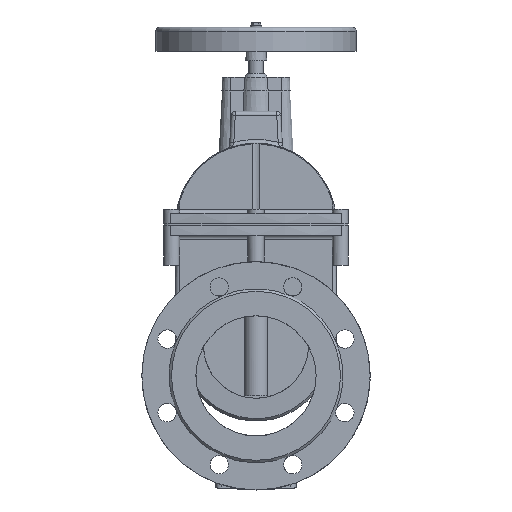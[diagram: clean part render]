
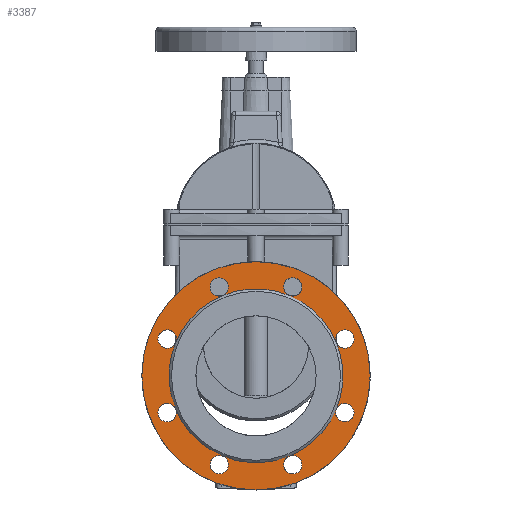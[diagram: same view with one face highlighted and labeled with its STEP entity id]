
A CAD part, left-side view. The second image highlights one B-rep face of the part: STEP entity #3387.
In plain terms, the highlighted planar face has unit normal (-1, 0, 0).
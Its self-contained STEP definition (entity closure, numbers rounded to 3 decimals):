
#3387=ADVANCED_FACE('',(#8542,#8544,#8546,#8548,#8550,#8552,#8554,#8556,#8558,#8560),
#8562,.F.);
#8542=FACE_BOUND('',#8543,.T.);
#8543=EDGE_LOOP('',(#17912));
#8544=FACE_BOUND('',#8545,.T.);
#8545=EDGE_LOOP('',(#17913,#17914));
#8546=FACE_BOUND('',#8547,.T.);
#8547=EDGE_LOOP('',(#17915));
#8548=FACE_BOUND('',#8549,.T.);
#8549=EDGE_LOOP('',(#17916));
#8550=FACE_BOUND('',#8551,.T.);
#8551=EDGE_LOOP('',(#17917,#17918,#17919,#17920,#17921,#17922,#17923));
#8552=FACE_BOUND('',#8553,.T.);
#8553=EDGE_LOOP('',(#17924,#17925));
#8554=FACE_BOUND('',#8555,.T.);
#8555=EDGE_LOOP('',(#17926,#17927));
#8556=FACE_BOUND('',#8557,.T.);
#8557=EDGE_LOOP('',(#17928,#17929));
#8558=FACE_BOUND('',#8559,.T.);
#8559=EDGE_LOOP('',(#17930,#17931));
#8560=FACE_BOUND('',#8561,.T.);
#8561=EDGE_LOOP('',(#17932,#17933));
#8562=PLANE('',#8563);
#8563=AXIS2_PLACEMENT_3D('',#8564,#8565,#8566);
#8564=CARTESIAN_POINT('',(-172.,0.,0.));
#8565=DIRECTION('',(1.,0.,0.));
#8566=DIRECTION('',(0.,1.,0.));
#17912=ORIENTED_EDGE('',*,*,#20651,.F.);
#17913=ORIENTED_EDGE('',*,*,#20659,.T.);
#17914=ORIENTED_EDGE('',*,*,#20660,.T.);
#17915=ORIENTED_EDGE('',*,*,#20658,.T.);
#17916=ORIENTED_EDGE('',*,*,#20671,.T.);
#17917=ORIENTED_EDGE('',*,*,#20773,.F.);
#17918=ORIENTED_EDGE('',*,*,#20774,.F.);
#17919=ORIENTED_EDGE('',*,*,#20775,.F.);
#17920=ORIENTED_EDGE('',*,*,#20776,.F.);
#17921=ORIENTED_EDGE('',*,*,#20777,.F.);
#17922=ORIENTED_EDGE('',*,*,#20778,.F.);
#17923=ORIENTED_EDGE('',*,*,#20779,.F.);
#17924=ORIENTED_EDGE('',*,*,#20670,.T.);
#17925=ORIENTED_EDGE('',*,*,#20669,.T.);
#17926=ORIENTED_EDGE('',*,*,#20668,.T.);
#17927=ORIENTED_EDGE('',*,*,#20667,.T.);
#17928=ORIENTED_EDGE('',*,*,#20666,.T.);
#17929=ORIENTED_EDGE('',*,*,#20665,.T.);
#17930=ORIENTED_EDGE('',*,*,#20664,.T.);
#17931=ORIENTED_EDGE('',*,*,#20663,.T.);
#17932=ORIENTED_EDGE('',*,*,#20661,.T.);
#17933=ORIENTED_EDGE('',*,*,#20662,.T.);
#20651=EDGE_CURVE('',#23377,#23377,#23378,.T.);
#20658=EDGE_CURVE('',#23387,#23387,#23388,.T.);
#20659=EDGE_CURVE('',#23389,#23390,#23391,.T.);
#20660=EDGE_CURVE('',#23390,#23389,#23392,.T.);
#20661=EDGE_CURVE('',#23393,#23394,#23395,.T.);
#20662=EDGE_CURVE('',#23394,#23393,#23396,.T.);
#20663=EDGE_CURVE('',#23397,#23398,#23399,.T.);
#20664=EDGE_CURVE('',#23398,#23397,#23400,.T.);
#20665=EDGE_CURVE('',#23401,#23402,#23403,.T.);
#20666=EDGE_CURVE('',#23402,#23401,#23404,.T.);
#20667=EDGE_CURVE('',#23405,#23406,#23407,.T.);
#20668=EDGE_CURVE('',#23406,#23405,#23408,.T.);
#20669=EDGE_CURVE('',#23409,#23410,#23411,.T.);
#20670=EDGE_CURVE('',#23410,#23409,#23412,.T.);
#20671=EDGE_CURVE('',#23413,#23413,#23414,.T.);
#20773=EDGE_CURVE('',#23406,#23410,#23565,.T.);
#20774=EDGE_CURVE('',#23566,#23406,#23567,.T.);
#20775=EDGE_CURVE('',#23402,#23566,#23568,.T.);
#20776=EDGE_CURVE('',#23398,#23402,#23569,.T.);
#20777=EDGE_CURVE('',#23393,#23398,#23570,.T.);
#20778=EDGE_CURVE('',#23389,#23393,#23571,.T.);
#20779=EDGE_CURVE('',#23410,#23389,#23572,.T.);
#23377=VERTEX_POINT('',#32287);
#23378=CIRCLE('',#32288,142.5);
#23387=VERTEX_POINT('',#32314);
#23388=CIRCLE('',#32315,11.5);
#23389=VERTEX_POINT('',#32319);
#23390=VERTEX_POINT('',#32320);
#23391=CIRCLE('',#32321,11.5);
#23392=CIRCLE('',#32325,11.5);
#23393=VERTEX_POINT('',#32329);
#23394=VERTEX_POINT('',#32330);
#23395=CIRCLE('',#32331,11.5);
#23396=CIRCLE('',#32335,11.5);
#23397=VERTEX_POINT('',#32339);
#23398=VERTEX_POINT('',#32340);
#23399=CIRCLE('',#32341,11.5);
#23400=CIRCLE('',#32345,11.5);
#23401=VERTEX_POINT('',#32349);
#23402=VERTEX_POINT('',#32350);
#23403=CIRCLE('',#32351,11.5);
#23404=CIRCLE('',#32355,11.5);
#23405=VERTEX_POINT('',#32359);
#23406=VERTEX_POINT('',#32360);
#23407=CIRCLE('',#32361,11.5);
#23408=CIRCLE('',#32365,11.5);
#23409=VERTEX_POINT('',#32369);
#23410=VERTEX_POINT('',#32370);
#23411=CIRCLE('',#32371,11.5);
#23412=CIRCLE('',#32375,11.5);
#23413=VERTEX_POINT('',#32379);
#23414=CIRCLE('',#32380,11.5);
#23565=CIRCLE('',#32751,108.5);
#23566=VERTEX_POINT('',#32755);
#23567=CIRCLE('',#32756,108.5);
#23568=CIRCLE('',#32760,108.5);
#23569=CIRCLE('',#32764,108.5);
#23570=CIRCLE('',#32768,108.5);
#23571=CIRCLE('',#32772,108.5);
#23572=CIRCLE('',#32776,108.5);
#32287=CARTESIAN_POINT('',(-172.,142.5,0.));
#32288=AXIS2_PLACEMENT_3D('',#32289,#32290,#32291);
#32289=CARTESIAN_POINT('',(-172.,0.,0.));
#32290=DIRECTION('',(1.,0.,0.));
#32291=DIRECTION('',(0.,1.,0.));
#32314=CARTESIAN_POINT('',(-172.,122.366,45.922));
#32315=AXIS2_PLACEMENT_3D('',#32316,#32317,#32318);
#32316=CARTESIAN_POINT('',(-172.,110.866,45.922));
#32317=DIRECTION('',(1.,0.,0.));
#32318=DIRECTION('',(0.,1.,0.));
#32319=CARTESIAN_POINT('',(-172.,100.241,-41.521));
#32320=CARTESIAN_POINT('',(-172.,118.997,-54.054));
#32321=AXIS2_PLACEMENT_3D('',#32322,#32323,#32324);
#32322=CARTESIAN_POINT('',(-172.,110.866,-45.922));
#32323=DIRECTION('',(1.,0.,0.));
#32324=DIRECTION('',(0.,-0.924,0.383));
#32325=AXIS2_PLACEMENT_3D('',#32326,#32327,#32328);
#32326=CARTESIAN_POINT('',(-172.,110.866,-45.922));
#32327=DIRECTION('',(1.,0.,0.));
#32328=DIRECTION('',(0.,0.707,-0.707));
#32329=CARTESIAN_POINT('',(-172.,41.521,-100.241));
#32330=CARTESIAN_POINT('',(-172.,45.922,-122.366));
#32331=AXIS2_PLACEMENT_3D('',#32332,#32333,#32334);
#32332=CARTESIAN_POINT('',(-172.,45.922,-110.866));
#32333=DIRECTION('',(1.,0.,0.));
#32334=DIRECTION('',(0.,-0.383,0.924));
#32335=AXIS2_PLACEMENT_3D('',#32336,#32337,#32338);
#32336=CARTESIAN_POINT('',(-172.,45.922,-110.866));
#32337=DIRECTION('',(1.,0.,0.));
#32338=DIRECTION('',(0.,0.,-1.));
#32339=CARTESIAN_POINT('',(-172.,-54.054,-118.997));
#32340=CARTESIAN_POINT('',(-172.,-41.521,-100.241));
#32341=AXIS2_PLACEMENT_3D('',#32342,#32343,#32344);
#32342=CARTESIAN_POINT('',(-172.,-45.922,-110.866));
#32343=DIRECTION('',(1.,0.,0.));
#32344=DIRECTION('',(0.,-0.707,-0.707));
#32345=AXIS2_PLACEMENT_3D('',#32346,#32347,#32348);
#32346=CARTESIAN_POINT('',(-172.,-45.922,-110.866));
#32347=DIRECTION('',(1.,0.,0.));
#32348=DIRECTION('',(0.,0.383,0.924));
#32349=CARTESIAN_POINT('',(-172.,-122.366,-45.922));
#32350=CARTESIAN_POINT('',(-172.,-100.241,-41.521));
#32351=AXIS2_PLACEMENT_3D('',#32352,#32353,#32354);
#32352=CARTESIAN_POINT('',(-172.,-110.866,-45.922));
#32353=DIRECTION('',(1.,0.,0.));
#32354=DIRECTION('',(0.,-1.,0.));
#32355=AXIS2_PLACEMENT_3D('',#32356,#32357,#32358);
#32356=CARTESIAN_POINT('',(-172.,-110.866,-45.922));
#32357=DIRECTION('',(1.,0.,0.));
#32358=DIRECTION('',(0.,0.924,0.383));
#32359=CARTESIAN_POINT('',(-172.,-118.997,54.054));
#32360=CARTESIAN_POINT('',(-172.,-100.241,41.521));
#32361=AXIS2_PLACEMENT_3D('',#32362,#32363,#32364);
#32362=CARTESIAN_POINT('',(-172.,-110.866,45.922));
#32363=DIRECTION('',(1.,0.,0.));
#32364=DIRECTION('',(0.,-0.707,0.707));
#32365=AXIS2_PLACEMENT_3D('',#32366,#32367,#32368);
#32366=CARTESIAN_POINT('',(-172.,-110.866,45.922));
#32367=DIRECTION('',(1.,0.,0.));
#32368=DIRECTION('',(0.,0.924,-0.383));
#32369=CARTESIAN_POINT('',(-172.,-45.922,122.366));
#32370=CARTESIAN_POINT('',(-172.,-41.521,100.241));
#32371=AXIS2_PLACEMENT_3D('',#32372,#32373,#32374);
#32372=CARTESIAN_POINT('',(-172.,-45.922,110.866));
#32373=DIRECTION('',(1.,0.,0.));
#32374=DIRECTION('',(0.,0.,1.));
#32375=AXIS2_PLACEMENT_3D('',#32376,#32377,#32378);
#32376=CARTESIAN_POINT('',(-172.,-45.922,110.866));
#32377=DIRECTION('',(1.,0.,0.));
#32378=DIRECTION('',(0.,0.383,-0.924));
#32379=CARTESIAN_POINT('',(-172.,54.054,118.997));
#32380=AXIS2_PLACEMENT_3D('',#32381,#32382,#32383);
#32381=CARTESIAN_POINT('',(-172.,45.922,110.866));
#32382=DIRECTION('',(1.,0.,0.));
#32383=DIRECTION('',(0.,0.707,0.707));
#32751=AXIS2_PLACEMENT_3D('',#32752,#32753,#32754);
#32752=CARTESIAN_POINT('',(-172.,0.,0.));
#32753=DIRECTION('',(-1.,0.,0.));
#32754=DIRECTION('',(0.,-0.924,0.383));
#32755=CARTESIAN_POINT('',(-172.,-108.5,0.));
#32756=AXIS2_PLACEMENT_3D('',#32757,#32758,#32759);
#32757=CARTESIAN_POINT('',(-172.,0.,0.));
#32758=DIRECTION('',(-1.,0.,0.));
#32759=DIRECTION('',(0.,-1.,0.));
#32760=AXIS2_PLACEMENT_3D('',#32761,#32762,#32763);
#32761=CARTESIAN_POINT('',(-172.,0.,0.));
#32762=DIRECTION('',(-1.,0.,0.));
#32763=DIRECTION('',(0.,-0.924,-0.383));
#32764=AXIS2_PLACEMENT_3D('',#32765,#32766,#32767);
#32765=CARTESIAN_POINT('',(-172.,0.,0.));
#32766=DIRECTION('',(-1.,0.,0.));
#32767=DIRECTION('',(0.,-0.383,-0.924));
#32768=AXIS2_PLACEMENT_3D('',#32769,#32770,#32771);
#32769=CARTESIAN_POINT('',(-172.,0.,0.));
#32770=DIRECTION('',(-1.,0.,0.));
#32771=DIRECTION('',(0.,0.383,-0.924));
#32772=AXIS2_PLACEMENT_3D('',#32773,#32774,#32775);
#32773=CARTESIAN_POINT('',(-172.,0.,0.));
#32774=DIRECTION('',(-1.,0.,0.));
#32775=DIRECTION('',(0.,0.924,-0.383));
#32776=AXIS2_PLACEMENT_3D('',#32777,#32778,#32779);
#32777=CARTESIAN_POINT('',(-172.,0.,0.));
#32778=DIRECTION('',(-1.,0.,0.));
#32779=DIRECTION('',(0.,-0.383,0.924));
